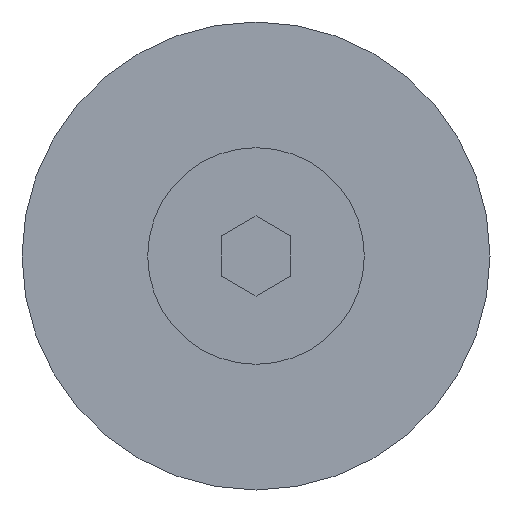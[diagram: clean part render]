
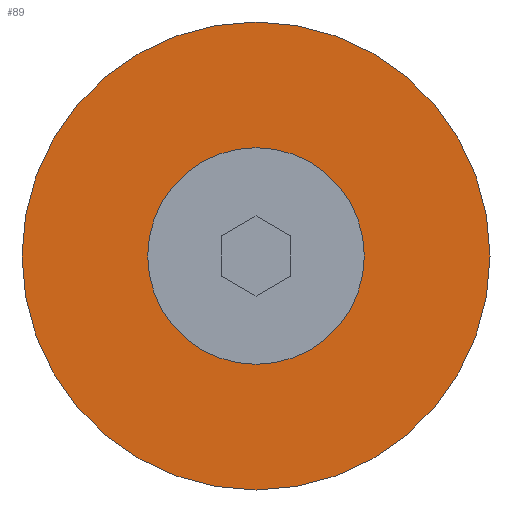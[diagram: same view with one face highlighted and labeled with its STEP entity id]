
A CAD part, front view. The second image highlights one B-rep face of the part: STEP entity #89.
In plain terms, the highlighted planar face has unit normal (0, -1, 0).
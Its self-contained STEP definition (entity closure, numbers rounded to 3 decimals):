
#89 = ADVANCED_FACE( '', ( #136, #137 ), #138, .F. );
#136 = FACE_BOUND( '', #197, .T. );
#137 = FACE_OUTER_BOUND( '', #198, .T. );
#138 = PLANE( '', #199 );
#197 = EDGE_LOOP( '', ( #319 ) );
#198 = EDGE_LOOP( '', ( #320 ) );
#199 = AXIS2_PLACEMENT_3D( '', #321, #322, #323 );
#319 = ORIENTED_EDGE( '', *, *, #420, .F. );
#320 = ORIENTED_EDGE( '', *, *, #421, .T. );
#321 = CARTESIAN_POINT( '', ( 27., -33., 0. ) );
#322 = DIRECTION( '', ( 0., 1., 0. ) );
#323 = DIRECTION( '', ( 0., 0., 1. ) );
#420 = EDGE_CURVE( '', #490, #490, #491, .T. );
#421 = EDGE_CURVE( '', #492, #492, #493, .T. );
#490 = VERTEX_POINT( '', #594 );
#491 = CIRCLE( '', #595, 12.5 );
#492 = VERTEX_POINT( '', #596 );
#493 = CIRCLE( '', #597, 27. );
#594 = CARTESIAN_POINT( '', ( 0., -33., -12.5 ) );
#595 = AXIS2_PLACEMENT_3D( '', #674, #675, #676 );
#596 = CARTESIAN_POINT( '', ( 0., -33., -27. ) );
#597 = AXIS2_PLACEMENT_3D( '', #677, #678, #679 );
#674 = CARTESIAN_POINT( '', ( 0., -33., 0. ) );
#675 = DIRECTION( '', ( 0., -1., 0. ) );
#676 = DIRECTION( '', ( 0., 0., -1. ) );
#677 = CARTESIAN_POINT( '', ( 0., -33., 0. ) );
#678 = DIRECTION( '', ( 0., -1., 0. ) );
#679 = DIRECTION( '', ( 0., 0., -1. ) );
